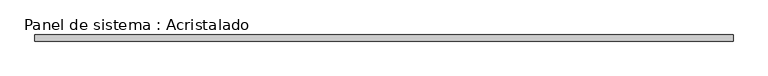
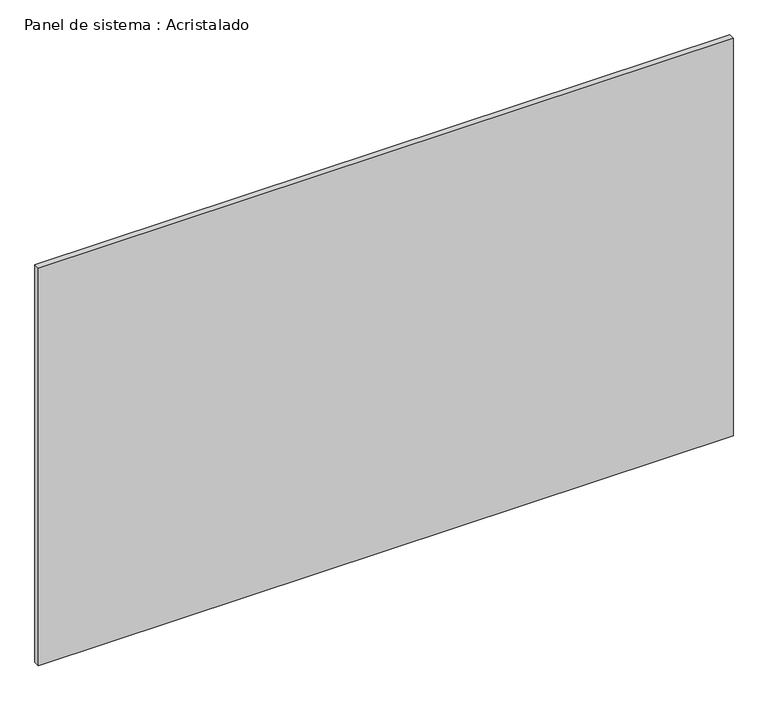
"""IFC4 building model written with IfcOpenShell, lengths in millimetres: plate geometry, Panel de sistema : Acristalado."""

from ifc_helpers import new_model, si_unit, origin, origin_with_axes, place, context, project, spatial, polyline, outline, extrude, source, transform, mapped, element, save


def panel_de_sistema_acristalado_6664dc34(model_context):
    return source(origin(), model_context, "Body", "SweptSolid", [
        extrude(outline(polyline([(1145.0, -10.0), (-1145.0, -10.0), (-1145.0, 10.0), (1145.0, 10.0), (1145.0, -10.0)])), origin_with_axes(), (0.0, 0.0, 1.0), 1385.0),
    ])


if __name__ == "__main__":
    model = new_model("IFC4")
    model_context = context("Model", 3, world=origin())
    ifc_project = project(units=[si_unit("LENGTHUNIT", "METRE", prefix="MILLI")], contexts=[model_context])
    site = spatial("IfcSite", under=ifc_project)
    building = spatial("IfcBuilding", under=site)
    placement = place(None, origin())
    panel_de_sistema_acristalado_shape = panel_de_sistema_acristalado_6664dc34(model_context)
    element("IfcPlate", 1, ObjectType="Panel de sistema : Acristalado", at=placement, inside=building, context=model_context, shape_type="MappedRepresentation", body=[
        mapped(panel_de_sistema_acristalado_shape, transform((0.0, 0.0, 0.0), x_axis=(1.0, 0.0, 0.0), y_axis=(0.0, 1.0, 0.0), z_axis=(0.0, 0.0, 1.0))),
    ])
    save(model, "model.ifc")
